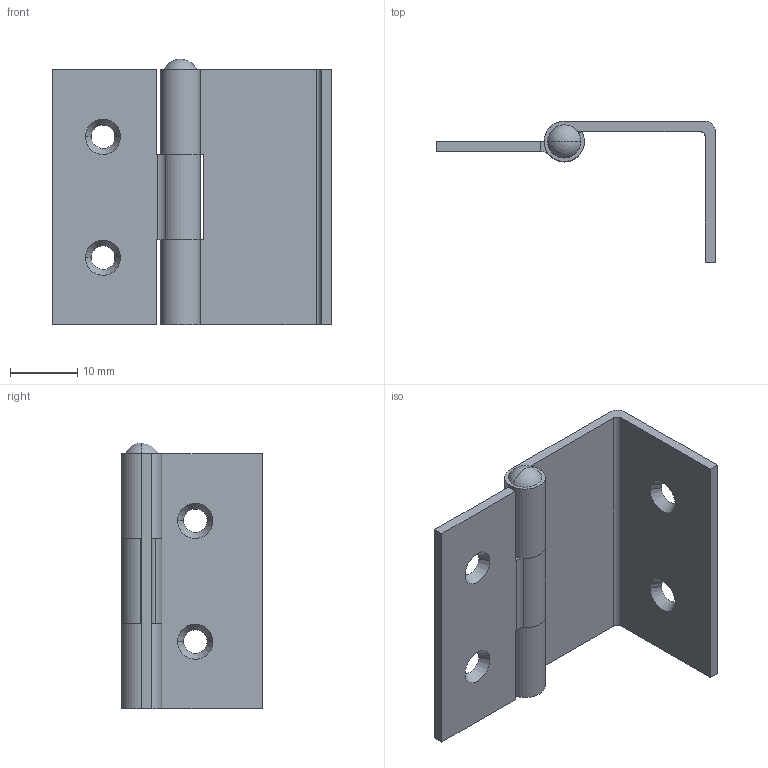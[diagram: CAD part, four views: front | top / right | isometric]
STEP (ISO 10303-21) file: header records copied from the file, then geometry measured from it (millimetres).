
FILE_DESCRIPTION((''),'2;1');
FILE_NAME('6041.01.stp','2011-08-12T10:34:58',(''),(''),'Mechanical Desktop 2006','Mechanical Desktop 2006',', , ');
FILE_SCHEMA(('CONFIG_CONTROL_DESIGN'));
Length unit declared in the file: millimetre
Products named in the file (1): 6041.01
Bounding box: 41.5 x 21 x 39.55 mm (x, y, z)
Volume: 4105 mm3; surface area: 5722.3 mm2
Topology: 2 solids, 2 shells, 55 faces, 157 edges, 102 vertices
Faces by surface type: plane 24, cylinder 19, cone 10, sphere 2
Entity records: 1907 total; most frequent: DIRECTION 332, CARTESIAN_POINT 311, ORIENTED_EDGE 308, EDGE_CURVE 154, AXIS2_PLACEMENT_3D 122, VERTEX_POINT 101, VECTOR 88, LINE 88
